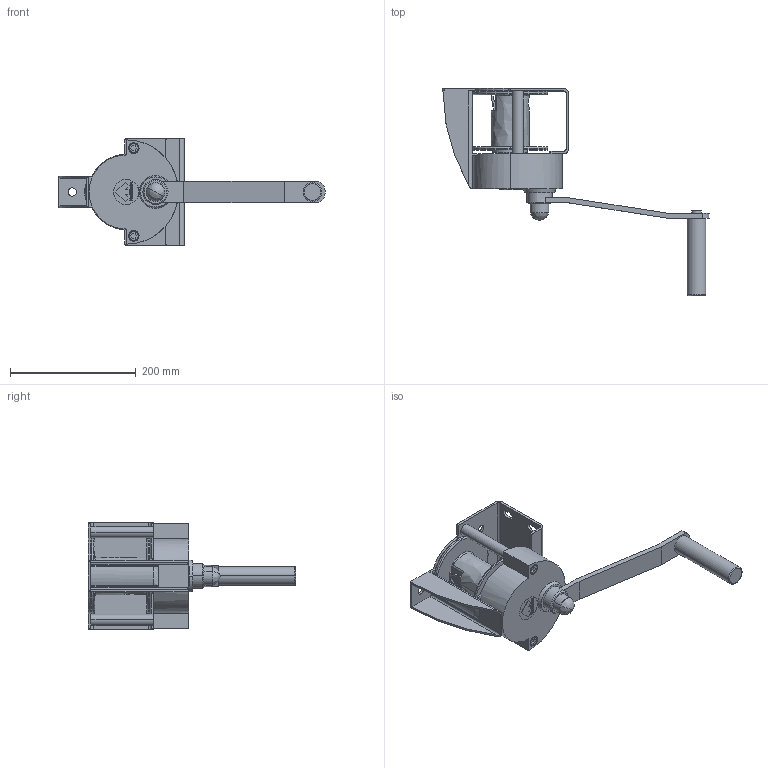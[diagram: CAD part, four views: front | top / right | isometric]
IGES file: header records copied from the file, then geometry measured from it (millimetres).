
Start section: Elysium IGES Interface
Global section: file name: H:\bbs\3D-Datenaustausch\Handseilwinden\Tango\207099.igs; native system: Creo Elements/Direct Modeling 18.1F  24-Jul-2014; preprocessor: Creo Element/Direct IGES_3D V2.2; author: Unknown; organization: Unknown; date: 20180117.161125; units: millimetre
Bounding box: 423.68 x 329.9 x 170 mm (x, y, z)
Volume: 1116309.9 mm3; surface area: 362113.3 mm2
Topology: 2 solids, 4 shells, 538 faces, 1430 edges, 925 vertices
Faces by surface type: bspline 538
